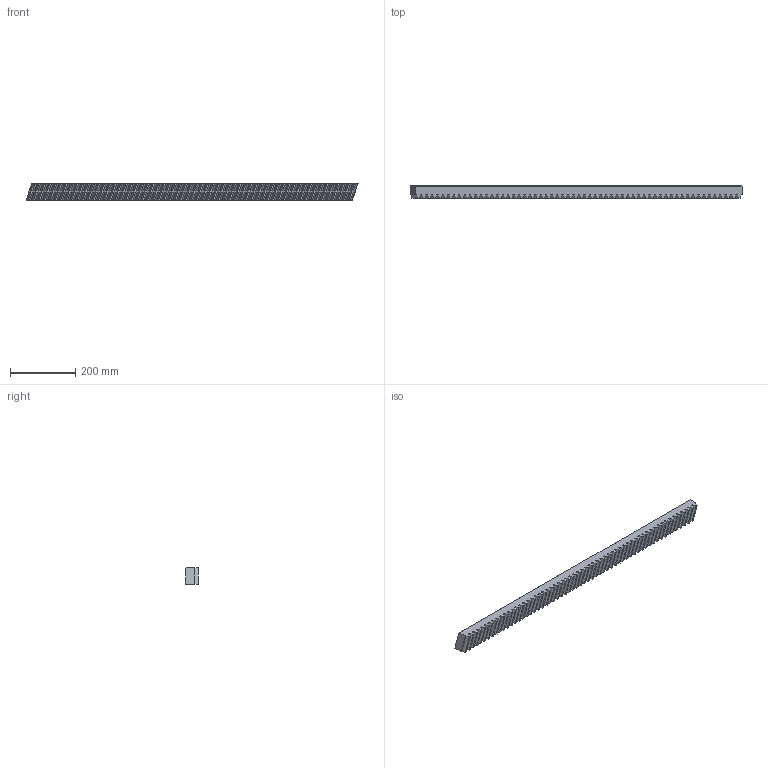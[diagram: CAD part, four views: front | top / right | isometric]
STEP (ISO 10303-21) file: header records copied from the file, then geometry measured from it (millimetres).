
FILE_DESCRIPTION(/* description */ (''),/* implementation_level */ '2;1');
FILE_NAME(/* name */ 'BL-1HR29R050100.ipt',/* time_stamp */ '2019-06-18T14:27:14+02:00',/* author */ ('VĂ©gh MĂˇtĂ©'),/* organization */ ('Bearing Kft'),/* preprocessor_version */ 'ST-DEVELOPER v16.7',/* originating_system */ 'DEX',/* authorisation */ $);
FILE_SCHEMA (('AUTOMOTIVE_DESIGN {1 0 10303 214 3 1 1}'));
Length unit declared in the file: millimetre
Products named in the file (1): BL-1HR29R050100.ipt
Bounding box: 1017.74 x 39 x 50 mm (x, y, z)
Volume: 1679545.3 mm3; surface area: 218503.1 mm2
Topology: 1 solids, 1 shells, 695 faces, 1911 edges, 1274 vertices
Faces by surface type: plane 494, bspline 199, cylinder 2
Entity records: 27373 total; most frequent: CARTESIAN_POINT 10688, ORIENTED_EDGE 3802, DIRECTION 2741, EDGE_CURVE 1901, LINE 1499, VECTOR 1499, VERTEX_POINT 1274, EDGE_LOOP 761
